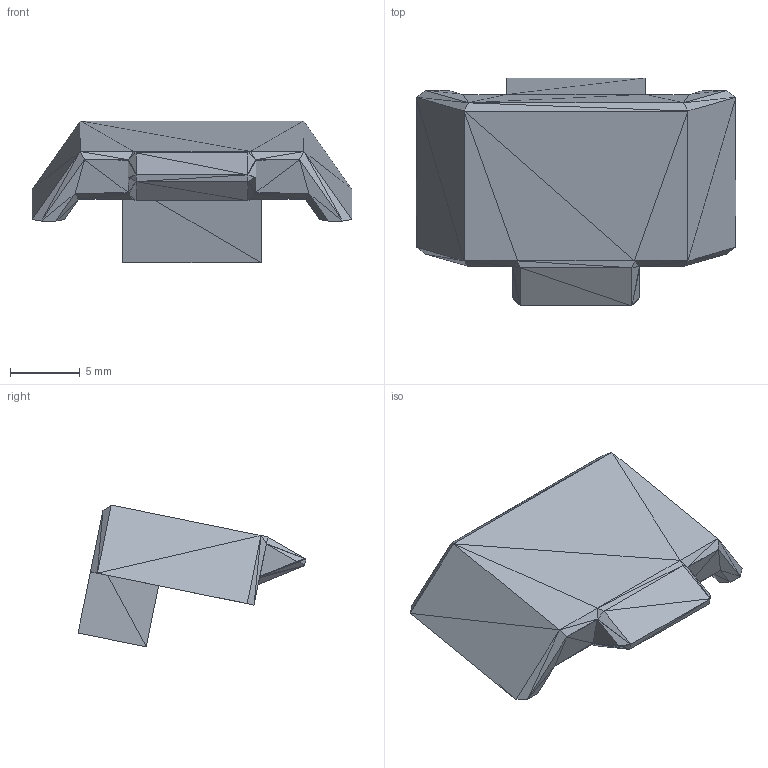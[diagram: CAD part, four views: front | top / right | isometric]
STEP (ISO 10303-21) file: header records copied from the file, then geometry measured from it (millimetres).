
FILE_DESCRIPTION((''),'2;1');
FILE_NAME('Index Finger K2', '2025-03-27T07:42:45', (''), (''), 'ImageToStl.com STEP Converter','', '');
FILE_SCHEMA(('AUTOMOTIVE_DESIGN_CC2'));
Length unit declared in the file: metre
Products named in the file (1): product0
Bounding box: 23 x 16.39 x 10.21 mm (x, y, z)
Surface area: 980.9 mm2 (no closed solid volume)
Topology: 0 solids, 116 shells, 116 faces, 348 edges, 60 vertices
Faces by surface type: plane 116
Entity records: 2823 total; most frequent: DIRECTION 582, ORIENTED_EDGE 348, EDGE_CURVE 348, LINE 348, VECTOR 348, AXIS2_PLACEMENT_3D 117, STYLED_ITEM 117, FACE_SURFACE 116
